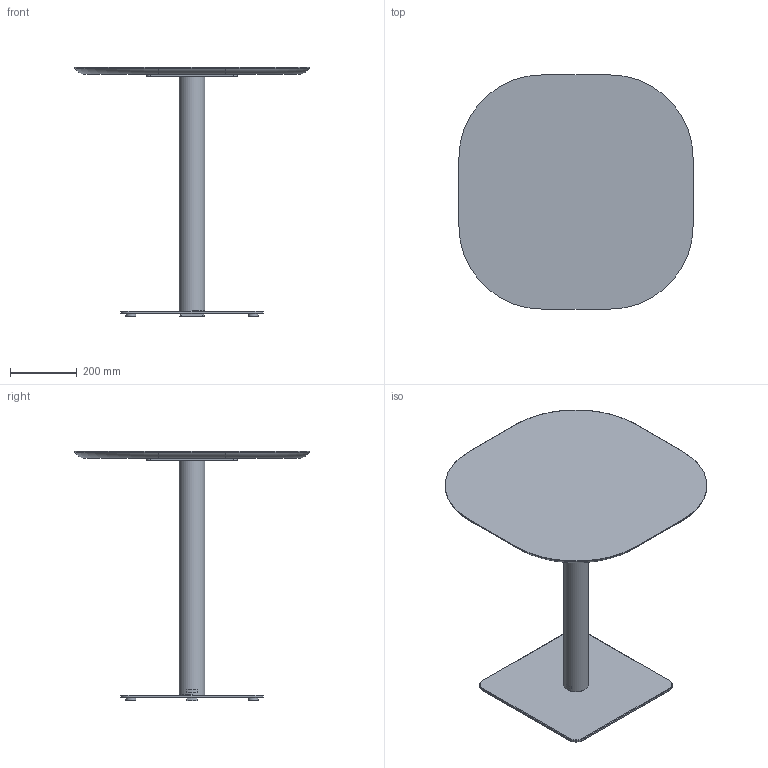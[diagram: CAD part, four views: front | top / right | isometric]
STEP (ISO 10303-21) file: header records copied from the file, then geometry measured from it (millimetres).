
FILE_DESCRIPTION( ('This file contains a STEP AP42 implementation' ,'as created by ZW3D STEP Interface translator.') ,'2;1' );
FILE_NAME( 'Henri - B_Carré - F2 - M3 - 700 x 700 x 750.stp' ,'24 912.165256', (''), ('ZWCAD Software Co.'), 'Version 1.0', 'ZW3D to STEP translator', '' );
FILE_SCHEMA(('AUTOMOTIVE_DESIGN { 1 0 10303 214 1 1 1 1 }'));
Length unit declared in the file: millimetre
Products named in the file (14): 0; PIED BISTROT PARAMETRIQUE_; COLONNE ACIER Ø76 V.02_; TUB-D076-02_; PLA-R76B-01_; CROIX ACIER 370 V.02_; CRX-X370-02_; SOCLE ACIER L 425x425 V.02_; SCL-R425-02_; PLA-R30A-01_; PLA-R30A-01; WUERTH 0276063020 Euro-screw 6.3x2 Verzinkt_; PLATEAU BISTROT PARAMETRIQUE_; insert_m6_13_
Assembly tree (22 placements, depth 3):
  0
  PIED BISTROT PARAMETRIQUE_
    COLONNE ACIER Ø76 V.02_
      TUB-D076-02_
      PLA-R76B-01_  x2
    CROIX ACIER 370 V.02_
      CRX-X370-02_
    SOCLE ACIER L 425x425 V.02_
      SCL-R425-02_
      PLA-R30A-01_
      PLA-R30A-01  x3
    WUERTH 0276063020 Euro-screw 6.3x2 Verzinkt_
    PLATEAU BISTROT PARAMETRIQUE_
      insert_m6_13_  x8
Bounding box: 700 x 700 x 744 mm (x, y, z)
Volume: 10745088.3 mm3; surface area: 1786517.8 mm2
Topology: 19 solids, 19 shells, 529 faces, 1294 edges, 814 vertices
Faces by surface type: plane 254, bspline 121, cylinder 102, cone 47, torus 5
Full cylindrical faces by diameter (mm): 4.88 x1, 6 x8, 6.3 x1, 8 x45, 12 x2, 14 x2, 30 x4, 72 x1, 76 x1
Entity records: 12114 total; most frequent: CARTESIAN_POINT 3364, ORIENTED_EDGE 1592, DIRECTION 1491, EDGE_CURVE 796, VERTEX_POINT 510, AXIS2_PLACEMENT_3D 499, VECTOR 493, LINE 493
